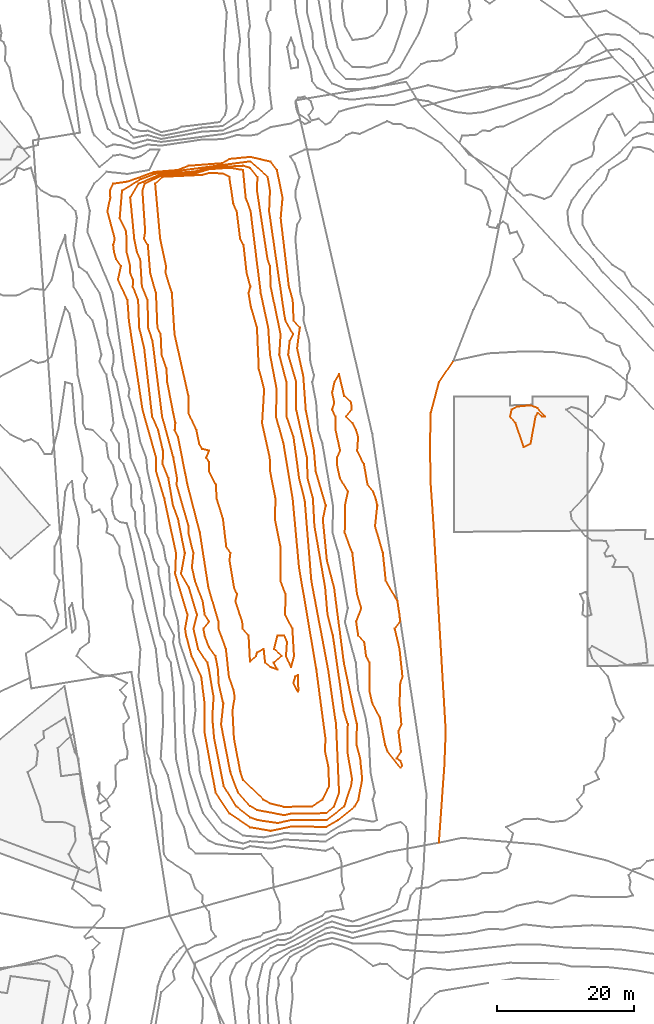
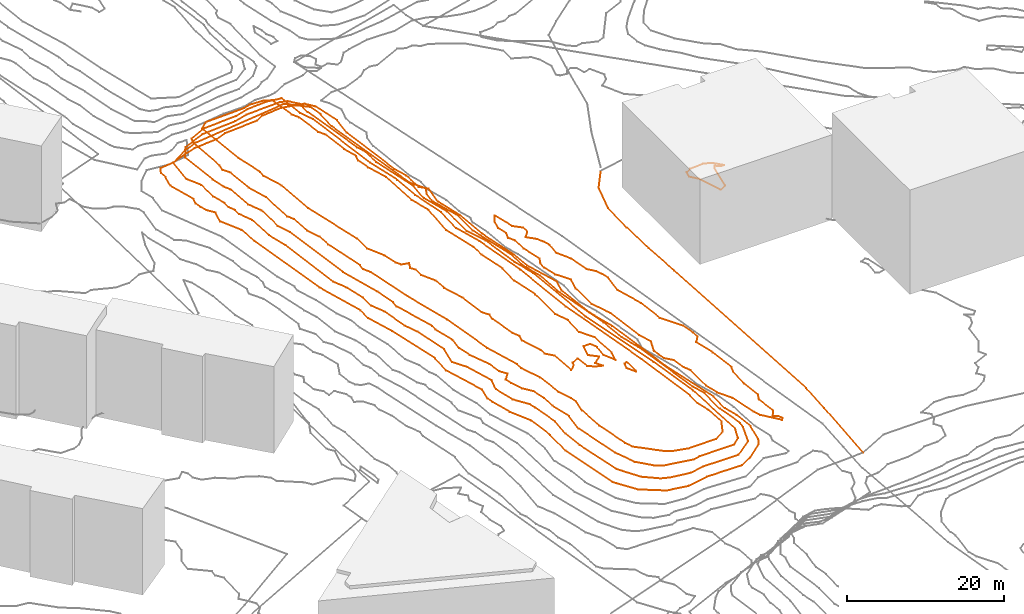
# Not in any storey, part 149 of 419: 10 proxies.
"""IFC2X3 model written with IfcOpenShell, lengths in metres."""

from ifc_helpers import new_model, entity, si_unit, frame, origin_with_axes, place, context, subcontext, project, element, save


model = new_model("IFC2X3")

# Units and contexts
model_context = context("Model", 3, precision=1e-05, world=origin_with_axes())
body_context = subcontext(model_context, "Body", "Model", "MODEL_VIEW")
ifc_project = project(units=[si_unit("AREAUNIT", "SQUARE_METRE"), si_unit("LENGTHUNIT", "METRE")], contexts=[model_context])

# Proxies
proxy_1_placement = place(None, frame((238.8920204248, 579.2976909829, 22.8), z_axis=(0.0, 0.0, 1.0), x_axis=(1.0, 0.0, 0.0)))
element("IfcBuildingElementProxy", 1, at=proxy_1_placement, Name="Route 189", ObjectType="NOTDEFINED", context=body_context, shape_type="GeometricCurveSet", body=[
    entity("IfcGeometricCurveSet", [entity("IfcPolyline", [entity("IfcCartesianPoint", [0.0, 0.0, 0.0]), entity("IfcCartesianPoint", [1.7999999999, -30.4000000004, -0.4]), entity("IfcCartesianPoint", [1.6, -35.4000000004, -0.4]), entity("IfcCartesianPoint", [0.7999999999, -46.7000000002, -0.2])])]),
])
proxy_2_placement = place(None, frame((238.3920204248, 590.4976909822, 22.9), z_axis=(0.0, 0.0, 1.0), x_axis=(1.0, 0.0, 0.0)))
element("IfcBuildingElementProxy", 2, at=proxy_2_placement, Name="Route 206", ObjectType="NOTDEFINED", context=body_context, shape_type="GeometricCurveSet", body=[
    entity("IfcGeometricCurveSet", [entity("IfcPolyline", [entity("IfcCartesianPoint", [3.3999999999, 12.5, 0.0]), entity("IfcCartesianPoint", [1.2999999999, 9.4000000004, 0.0]), entity("IfcCartesianPoint", [0.1, 4.9000000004, 0.0]), entity("IfcCartesianPoint", [0.0, 0.0, 0.0]), entity("IfcCartesianPoint", [0.1, -5.3999999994, 0.0]), entity("IfcCartesianPoint", [0.5, -11.1999999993, -0.1])])]),
])
proxy_3_placement = place(None, frame((250.0920004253, 594.8976909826, 24.0), z_axis=(0.0, 0.0, 1.0), x_axis=(1.0, 0.0, 0.0)))
element("IfcBuildingElementProxy", 3, at=proxy_3_placement, Name="Contour 24.0 m", ObjectType="NOTDEFINED", context=body_context, shape_type="GeometricCurveSet", body=[
    entity("IfcGeometricCurveSet", [entity("IfcPolyline", [entity("IfcCartesianPoint", [3.0000299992, -4.0, 0.0]), entity("IfcCartesianPoint", [2.0000199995, -4.5000499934, 0.0]), entity("IfcCartesianPoint", [0.8000199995, -1.0, 0.0]), entity("IfcCartesianPoint", [0.0, 0.0, 0.0]), entity("IfcCartesianPoint", [0.2222469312, 1.0, 0.0]), entity("IfcCartesianPoint", [1.0000199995, 1.4374985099, 0.0]), entity("IfcCartesianPoint", [3.0000199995, 1.6000025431, 0.0]), entity("IfcCartesianPoint", [4.0000199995, 1.2222269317, 0.0]), entity("IfcCartesianPoint", [5.1428810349, 0.0, 0.0]), entity("IfcCartesianPoint", [4.6666866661, 0.0, 0.0]), entity("IfcCartesianPoint", [4.0000199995, 0.4999750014, 0.0]), entity("IfcCartesianPoint", [3.7142979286, 0.0, 0.0]), entity("IfcCartesianPoint", [3.0000299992, -4.0, 0.0])])]),
])
proxy_4_placement = place(None, frame((198.227153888, 628.8976909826, 29.0), z_axis=(0.0, 0.0, 1.0), x_axis=(1.0, 0.0, 0.0)))
element("IfcBuildingElementProxy", 4, at=proxy_4_placement, Name="Contour 29.0 m", ObjectType="NOTDEFINED", context=body_context, shape_type="GeometricCurveSet", body=[
    entity("IfcGeometricCurveSet", [entity("IfcPolyline", [entity("IfcCartesianPoint", [17.8648832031, -71.0, 0.0]), entity("IfcCartesianPoint", [16.8648665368, -70.666666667, 0.0]), entity("IfcCartesianPoint", [16.0648665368, -70.0, 0.0]), entity("IfcCartesianPoint", [15.8648665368, -68.0000999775, 0.0]), entity("IfcCartesianPoint", [14.8648665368, -68.5000499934, 0.0]), entity("IfcCartesianPoint", [14.7220055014, -69.0, 0.0]), entity("IfcCartesianPoint", [13.8648665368, -69.8571389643, 0.0]), entity("IfcCartesianPoint", [13.6505779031, -66.0, 0.0]), entity("IfcCartesianPoint", [12.7779078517, -65.0, 0.0]), entity("IfcCartesianPoint", [12.722006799, -64.0, 0.0]), entity("IfcCartesianPoint", [11.722006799, -61.0, 0.0]), entity("IfcCartesianPoint", [11.9648684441, -60.0, 0.0]), entity("IfcCartesianPoint", [11.531537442, -59.0, 0.0]), entity("IfcCartesianPoint", [10.8648612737, -55.0, 0.0]), entity("IfcCartesianPoint", [10.9982032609, -54.0, 0.0]), entity("IfcCartesianPoint", [10.3942789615, -53.0, 0.0]), entity("IfcCartesianPoint", [9.9124864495, -49.0, 0.0]), entity("IfcCartesianPoint", [8.9953034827, -46.0, 0.0]), entity("IfcCartesianPoint", [8.8648665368, -44.0000333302, 0.0]), entity("IfcCartesianPoint", [7.8648498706, -42.0, 0.0]), entity("IfcCartesianPoint", [7.8648665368, -40.666666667, 0.0]), entity("IfcCartesianPoint", [7.4648665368, -40.0, 0.0]), entity("IfcCartesianPoint", [7.8647665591, -39.0, 0.0]), entity("IfcCartesianPoint", [6.8648665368, -38.75, 0.0]), entity("IfcCartesianPoint", [6.4362951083, -38.0, 0.0]), entity("IfcCartesianPoint", [6.0315385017, -36.0, 0.0]), entity("IfcCartesianPoint", [4.8648665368, -33.5000249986, 0.0]), entity("IfcCartesianPoint", [4.8648615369, -31.0, 0.0]), entity("IfcCartesianPoint", [2.8303830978, -22.0, 0.0]), entity("IfcCartesianPoint", [2.4481978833, -16.0, 0.0]), entity("IfcCartesianPoint", [1.5200387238, -13.0, 0.0]), entity("IfcCartesianPoint", [1.5890037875, -12.0, 0.0]), entity("IfcCartesianPoint", [0.7344326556, -8.0, 0.0]), entity("IfcCartesianPoint", [0.0, 0.0, 0.0]), entity("IfcCartesianPoint", [1.0398659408, 1.0, 0.0]), entity("IfcCartesianPoint", [6.8648665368, 1.2815127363, 0.0]), entity("IfcCartesianPoint", [7.8648665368, 1.5666665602, 0.0]), entity("IfcCartesianPoint", [9.8648665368, 1.4933344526, 0.0]), entity("IfcCartesianPoint", [10.838550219, 1.0, 0.0]), entity("IfcCartesianPoint", [11.4273680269, -3.0, 0.0]), entity("IfcCartesianPoint", [11.9113791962, -4.0, 0.0]), entity("IfcCartesianPoint", [12.4165920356, -8.0, 0.0]), entity("IfcCartesianPoint", [12.9184390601, -9.0, 0.0]), entity("IfcCartesianPoint", [13.3648694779, -13.0, 0.0]), entity("IfcCartesianPoint", [13.9096436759, -15.0, 0.0]), entity("IfcCartesianPoint", [13.6474781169, -16.0, 0.0]), entity("IfcCartesianPoint", [13.995300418, -18.0, 0.0]), entity("IfcCartesianPoint", [14.8827241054, -21.0, 0.0]), entity("IfcCartesianPoint", [15.1407292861, -27.0, 0.0]), entity("IfcCartesianPoint", [15.9286976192, -30.0, 0.0]), entity("IfcCartesianPoint", [15.6295727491, -35.0, 0.0]), entity("IfcCartesianPoint", [16.7472168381, -40.0, 0.0]), entity("IfcCartesianPoint", [16.7981985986, -42.0, 0.0]), entity("IfcCartesianPoint", [17.5836157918, -46.0, 0.0]), entity("IfcCartesianPoint", [17.5100274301, -49.0, 0.0]), entity("IfcCartesianPoint", [18.3148677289, -53.0, 0.0]), entity("IfcCartesianPoint", [18.3023650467, -58.0, 0.0]), entity("IfcCartesianPoint", [19.0648654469, -60.0, 0.0]), entity("IfcCartesianPoint", [18.9825162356, -63.0, 0.0]), entity("IfcCartesianPoint", [20.0540554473, -65.0, 0.0]), entity("IfcCartesianPoint", [20.2934360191, -69.0, 0.0]), entity("IfcCartesianPoint", [19.8648665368, -70.666666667, 0.0]), entity("IfcCartesianPoint", [19.1148724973, -69.0, 0.0]), entity("IfcCartesianPoint", [19.2648665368, -67.0, 0.0]), entity("IfcCartesianPoint", [18.8648665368, -66.0000499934, 0.0]), entity("IfcCartesianPoint", [17.8648665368, -66.0000999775, 0.0]), entity("IfcCartesianPoint", [17.364891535, -68.0, 0.0]), entity("IfcCartesianPoint", [18.4648665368, -69.0, 0.0]), entity("IfcCartesianPoint", [17.3093204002, -70.0, 0.0]), entity("IfcCartesianPoint", [17.8648832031, -71.0, 0.0])])]),
])
proxy_5_placement = place(None, frame((218.4253537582, 555.8976909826, 29.0), z_axis=(0.0, 0.0, 1.0), x_axis=(1.0, 0.0, 0.0)))
element("IfcBuildingElementProxy", 5, at=proxy_5_placement, Name="Contour 29.0 m", ObjectType="NOTDEFINED", context=body_context, shape_type="GeometricCurveSet", body=[
    entity("IfcGeometricCurveSet", [entity("IfcPolyline", [entity("IfcCartesianPoint", [0.7333350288, -1.0, 0.0]), entity("IfcCartesianPoint", [0.6666666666, -1.25, 0.0]), entity("IfcCartesianPoint", [0.0, 0.0, 0.0]), entity("IfcCartesianPoint", [0.2666666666, 1.0, 0.0]), entity("IfcCartesianPoint", [0.6666666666, 1.2222269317, 0.0]), entity("IfcCartesianPoint", [0.7333350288, -1.0, 0.0])])]),
])
proxy_6_placement = place(None, frame((224.0920204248, 598.397665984, 23.0), z_axis=(0.0, 0.0, 1.0), x_axis=(1.0, 0.0, 0.0)))
element("IfcBuildingElementProxy", 6, at=proxy_6_placement, Name="Contour 23.0 m", ObjectType="NOTDEFINED", context=body_context, shape_type="GeometricCurveSet", body=[
    entity("IfcGeometricCurveSet", [entity("IfcPolyline", [entity("IfcCartesianPoint", [10.0, -54.8571139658, 0.0]), entity("IfcCartesianPoint", [10.2499976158, -54.4999750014, 0.0]), entity("IfcCartesianPoint", [10.0, -53.8749839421, 0.0]), entity("IfcCartesianPoint", [9.4, -53.4999750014, 0.0]), entity("IfcCartesianPoint", [10.0588248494, -52.4999750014, 0.0]), entity("IfcCartesianPoint", [9.6875044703, -49.4999750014, 0.0]), entity("IfcCartesianPoint", [10.1290346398, -48.4999750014, 0.0]), entity("IfcCartesianPoint", [9.846151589, -45.4999750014, 0.0]), entity("IfcCartesianPoint", [9.9583323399, -42.4999750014, 0.0]), entity("IfcCartesianPoint", [10.2799987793, -41.4999750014, 0.0]), entity("IfcCartesianPoint", [9.8484871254, -37.4999750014, 0.0]), entity("IfcCartesianPoint", [9.1538495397, -34.4999750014, 0.0]), entity("IfcCartesianPoint", [9.9142838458, -33.4999750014, 0.0]), entity("IfcCartesianPoint", [9.862069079, -32.4999750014, 0.0]), entity("IfcCartesianPoint", [9.537037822, -30.4999750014, 0.0]), entity("IfcCartesianPoint", [7.8333354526, -27.4999750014, 0.0]), entity("IfcCartesianPoint", [7.4166686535, -23.4999750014, 0.0]), entity("IfcCartesianPoint", [6.2666700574, -19.4999750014, 0.0]), entity("IfcCartesianPoint", [6.5999984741, -16.4999750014, 0.0]), entity("IfcCartesianPoint", [6.3684202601, -15.4999750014, 0.0]), entity("IfcCartesianPoint", [6.0, -14.4999821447, 0.0]), entity("IfcCartesianPoint", [5.1904796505, -13.4999750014, 0.0]), entity("IfcCartesianPoint", [4.6499995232, -10.4999750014, 0.0]), entity("IfcCartesianPoint", [3.6521735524, -8.4999750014, 0.0]), entity("IfcCartesianPoint", [3.8076940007, -6.4999750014, 0.0]), entity("IfcCartesianPoint", [3.4999958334, -5.4999750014, 0.0]), entity("IfcCartesianPoint", [3.0, -4.4999833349, 0.0]), entity("IfcCartesianPoint", [1.9999916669, -3.4999750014, 0.0]), entity("IfcCartesianPoint", [2.8124955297, -2.4999750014, 0.0]), entity("IfcCartesianPoint", [2.7916696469, -1.4999750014, 0.0]), entity("IfcCartesianPoint", [1.7647006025, -0.4999750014, 0.0]), entity("IfcCartesianPoint", [1.0, 2.6666969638, 0.0]), entity("IfcCartesianPoint", [0.3333386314, 1.5000249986, 0.0]), entity("IfcCartesianPoint", [0.0, 0.0, 0.0]), entity("IfcCartesianPoint", [0.3124955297, -1.4999750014, 0.0]), entity("IfcCartesianPoint", [9.0906e-06, -2.4999750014, 0.0]), entity("IfcCartesianPoint", [0.478260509, -3.4999750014, 0.0]), entity("IfcCartesianPoint", [0.5151518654, -5.4999750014, 0.0]), entity("IfcCartesianPoint", [1.1666693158, -8.4999750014, 0.0]), entity("IfcCartesianPoint", [0.6999987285, -9.4999750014, 0.0]), entity("IfcCartesianPoint", [0.688889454, -10.4999750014, 0.0]), entity("IfcCartesianPoint", [1.1363660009, -12.4999750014, 0.0]), entity("IfcCartesianPoint", [2.3076934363, -14.4999750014, 0.0]), entity("IfcCartesianPoint", [1.8571441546, -16.4999750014, 0.0]), entity("IfcCartesianPoint", [1.8461541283, -20.4999750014, 0.0]), entity("IfcCartesianPoint", [2.9512183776, -23.4999750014, 0.0]), entity("IfcCartesianPoint", [3.6415088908, -29.4999750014, 0.0]), entity("IfcCartesianPoint", [4.2571430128, -31.4999750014, 0.0]), entity("IfcCartesianPoint", [3.51020432, -33.4999750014, 0.0]), entity("IfcCartesianPoint", [3.655172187, -34.4999750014, 0.0]), entity("IfcCartesianPoint", [3.819671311, -35.4999750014, 0.0]), entity("IfcCartesianPoint", [4.695652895, -36.4999750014, 0.0]), entity("IfcCartesianPoint", [4.9622633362, -38.4999750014, 0.0]), entity("IfcCartesianPoint", [5.4516117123, -39.4999750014, 0.0]), entity("IfcCartesianPoint", [5.4318188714, -43.4999750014, 0.0]), entity("IfcCartesianPoint", [5.8909099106, -45.4999750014, 0.0]), entity("IfcCartesianPoint", [6.9803917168, -47.4999750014, 0.0]), entity("IfcCartesianPoint", [7.75, -51.4999750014, 0.0]), entity("IfcCartesianPoint", [8.1052652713, -52.4999750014, 0.0]), entity("IfcCartesianPoint", [10.0, -54.8571139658, 0.0])])]),
])
proxy_7_placement = place(None, frame((196.3689441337, 627.8976909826, 28.0), z_axis=(0.0, 0.0, 1.0), x_axis=(1.0, 0.0, 0.0)))
element("IfcBuildingElementProxy", 7, at=proxy_7_placement, Name="Contour 28.0 m", ObjectType="NOTDEFINED", context=body_context, shape_type="GeometricCurveSet", body=[
    entity("IfcGeometricCurveSet", [entity("IfcPolyline", [entity("IfcCartesianPoint", [24.7706962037, -90.0, 0.0]), entity("IfcCartesianPoint", [20.723076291, -90.0821911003, 0.0]), entity("IfcCartesianPoint", [18.723076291, -89.6034490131, 0.0]), entity("IfcCartesianPoint", [17.654109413, -89.0, 0.0]), entity("IfcCartesianPoint", [14.723076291, -86.1851833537, 0.0]), entity("IfcCartesianPoint", [14.3048947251, -85.0, 0.0]), entity("IfcCartesianPoint", [13.3712240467, -80.0, 0.0]), entity("IfcCartesianPoint", [13.1578596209, -76.0, 0.0]), entity("IfcCartesianPoint", [13.4877806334, -74.0, 0.0]), entity("IfcCartesianPoint", [13.3230747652, -73.0, 0.0]), entity("IfcCartesianPoint", [12.639741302, -71.0, 0.0]), entity("IfcCartesianPoint", [12.1992661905, -67.0, 0.0]), entity("IfcCartesianPoint", [11.1230762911, -64.0, 0.0]), entity("IfcCartesianPoint", [11.1119641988, -63.0, 0.0]), entity("IfcCartesianPoint", [9.64307446, -58.0, 0.0]), entity("IfcCartesianPoint", [8.3897439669, -50.0, 0.0]), entity("IfcCartesianPoint", [6.5802197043, -43.0, 0.0]), entity("IfcCartesianPoint", [5.2087902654, -36.0, 0.0]), entity("IfcCartesianPoint", [4.7230747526, -35.0, 0.0]), entity("IfcCartesianPoint", [4.8000010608, -34.0, 0.0]), entity("IfcCartesianPoint", [3.627186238, -28.0, 0.0]), entity("IfcCartesianPoint", [3.5076924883, -26.0, 0.0]), entity("IfcCartesianPoint", [2.7958050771, -24.0, 0.0]), entity("IfcCartesianPoint", [2.6605749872, -21.0, 0.0]), entity("IfcCartesianPoint", [2.18974211, -20.0, 0.0]), entity("IfcCartesianPoint", [1.9773128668, -15.0, 0.0]), entity("IfcCartesianPoint", [1.1284818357, -12.0, 0.0]), entity("IfcCartesianPoint", [0.7971519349, -8.0, 0.0]), entity("IfcCartesianPoint", [0.2315494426, -7.0, 0.0]), entity("IfcCartesianPoint", [0.4039277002, -6.0, 0.0]), entity("IfcCartesianPoint", [0.0, 0.0, 0.0]), entity("IfcCartesianPoint", [0.3212067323, 1.0, 0.0]), entity("IfcCartesianPoint", [2.723076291, 2.1795408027, 0.0]), entity("IfcCartesianPoint", [7.723076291, 2.5029237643, 0.0]), entity("IfcCartesianPoint", [9.723076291, 3.1167882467, 0.0]), entity("IfcCartesianPoint", [12.723076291, 3.3206350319, 0.0]), entity("IfcCartesianPoint", [14.7045573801, 3.0, 0.0]), entity("IfcCartesianPoint", [15.0867132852, -1.0, 0.0]), entity("IfcCartesianPoint", [15.80758269, -3.0, 0.0]), entity("IfcCartesianPoint", [17.2945052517, -15.0, 0.0]), entity("IfcCartesianPoint", [18.3848418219, -20.0, 0.0]), entity("IfcCartesianPoint", [18.65363284, -24.0, 0.0]), entity("IfcCartesianPoint", [19.6119655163, -29.0, 0.0]), entity("IfcCartesianPoint", [19.517194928, -33.0, 0.0]), entity("IfcCartesianPoint", [20.6196289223, -37.0, 0.0]), entity("IfcCartesianPoint", [21.9525839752, -45.0, 0.0]), entity("IfcCartesianPoint", [22.8793265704, -55.0, 0.0]), entity("IfcCartesianPoint", [25.4127308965, -70.0, 0.0]), entity("IfcCartesianPoint", [26.7400258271, -80.0, 0.0]), entity("IfcCartesianPoint", [26.6891772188, -82.0, 0.0]), entity("IfcCartesianPoint", [27.1516473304, -84.0, 0.0]), entity("IfcCartesianPoint", [27.2875922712, -87.0, 0.0]), entity("IfcCartesianPoint", [26.3183142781, -89.0, 0.0]), entity("IfcCartesianPoint", [24.7706962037, -90.0, 0.0])])]),
])
proxy_8_placement = place(None, frame((194.5829293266, 626.8976909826, 27.0), z_axis=(0.0, 0.0, 1.0), x_axis=(1.0, 0.0, 0.0)))
element("IfcBuildingElementProxy", 8, at=proxy_8_placement, Name="Contour 27.0 m", ObjectType="NOTDEFINED", context=body_context, shape_type="GeometricCurveSet", body=[
    entity("IfcGeometricCurveSet", [entity("IfcPolyline", [entity("IfcCartesianPoint", [28.6184657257, -90.0, 0.0]), entity("IfcCartesianPoint", [23.5090910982, -90.0566032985, 0.0]), entity("IfcCartesianPoint", [22.5090910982, -90.2869565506, 0.0]), entity("IfcCartesianPoint", [18.5090910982, -89.5423722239, 0.0]), entity("IfcCartesianPoint", [17.5090910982, -88.9285698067, 0.0]), entity("IfcCartesianPoint", [15.7636357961, -87.0, 0.0]), entity("IfcCartesianPoint", [14.6259743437, -84.0, 0.0]), entity("IfcCartesianPoint", [13.2722486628, -77.0, 0.0]), entity("IfcCartesianPoint", [13.6063129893, -74.0, 0.0]), entity("IfcCartesianPoint", [12.9120768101, -71.0, 0.0]), entity("IfcCartesianPoint", [12.8340909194, -69.0, 0.0]), entity("IfcCartesianPoint", [12.4409078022, -67.0, 0.0]), entity("IfcCartesianPoint", [11.5090910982, -65.7500019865, 0.0]), entity("IfcCartesianPoint", [10.8874689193, -64.0, 0.0]), entity("IfcCartesianPoint", [10.6951373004, -63.0, 0.0]), entity("IfcCartesianPoint", [11.5215913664, -62.0, 0.0]), entity("IfcCartesianPoint", [10.8965908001, -61.0, 0.0]), entity("IfcCartesianPoint", [10.5880377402, -59.0, 0.0]), entity("IfcCartesianPoint", [9.4511188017, -56.0, 0.0]), entity("IfcCartesianPoint", [9.0229802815, -54.0, 0.0]), entity("IfcCartesianPoint", [9.2374868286, -52.0, 0.0]), entity("IfcCartesianPoint", [8.4968956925, -49.0, 0.0]), entity("IfcCartesianPoint", [8.5220784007, -48.0, 0.0]), entity("IfcCartesianPoint", [6.7749130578, -42.0, 0.0]), entity("IfcCartesianPoint", [6.8382049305, -41.0, 0.0]), entity("IfcCartesianPoint", [6.2969707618, -38.0, 0.0]), entity("IfcCartesianPoint", [4.6659536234, -32.0, 0.0]), entity("IfcCartesianPoint", [3.2590905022, -21.0, 0.0]), entity("IfcCartesianPoint", [2.6214509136, -19.0, 0.0]), entity("IfcCartesianPoint", [2.5354074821, -15.0, 0.0]), entity("IfcCartesianPoint", [1.7090900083, -13.0, 0.0]), entity("IfcCartesianPoint", [1.45824249, -9.0, 0.0]), entity("IfcCartesianPoint", [0.9757582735, -8.0, 0.0]), entity("IfcCartesianPoint", [0.5880377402, -6.0, 0.0]), entity("IfcCartesianPoint", [0.0, 0.0, 0.0]), entity("IfcCartesianPoint", [1.1933014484, 2.0, 0.0]), entity("IfcCartesianPoint", [4.5090910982, 3.3883090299, 0.0]), entity("IfcCartesianPoint", [9.5090910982, 3.7953214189, 0.0]), entity("IfcCartesianPoint", [11.5090910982, 4.3600973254, 0.0]), entity("IfcCartesianPoint", [16.5090910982, 4.6149064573, 0.0]), entity("IfcCartesianPoint", [17.5090910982, 4.3181822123, 0.0]), entity("IfcCartesianPoint", [18.5890929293, 3.0, 0.0]), entity("IfcCartesianPoint", [18.5308306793, 1.0, 0.0]), entity("IfcCartesianPoint", [20.0662339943, -9.0, 0.0]), entity("IfcCartesianPoint", [20.4228855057, -10.0, 0.0]), entity("IfcCartesianPoint", [20.5266353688, -13.0, 0.0]), entity("IfcCartesianPoint", [21.973377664, -20.0, 0.0]), entity("IfcCartesianPoint", [21.7829000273, -23.0, 0.0]), entity("IfcCartesianPoint", [22.8369608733, -27.0, 0.0]), entity("IfcCartesianPoint", [22.83766241, -32.0, 0.0]), entity("IfcCartesianPoint", [23.8650228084, -35.0, 0.0]), entity("IfcCartesianPoint", [24.6819299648, -41.0, 0.0]), entity("IfcCartesianPoint", [25.5090910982, -44.3000057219, 0.0]), entity("IfcCartesianPoint", [26.4690901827, -56.0, 0.0]), entity("IfcCartesianPoint", [28.925758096, -69.0, 0.0]), entity("IfcCartesianPoint", [30.0835586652, -77.0, 0.0]), entity("IfcCartesianPoint", [30.5244760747, -87.0, 0.0]), entity("IfcCartesianPoint", [29.7630594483, -89.0, 0.0]), entity("IfcCartesianPoint", [28.6184657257, -90.0, 0.0])])]),
])
proxy_9_placement = place(None, frame((193.0485412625, 623.8976909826, 26.0), z_axis=(0.0, 0.0, 1.0), x_axis=(1.0, 0.0, 0.0)))
element("IfcBuildingElementProxy", 9, at=proxy_9_placement, Name="Contour 26.0 m", ObjectType="NOTDEFINED", context=body_context, shape_type="GeometricCurveSet", body=[
    entity("IfcGeometricCurveSet", [entity("IfcPolyline", [entity("IfcCartesianPoint", [30.2165562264, -88.0, 0.0]), entity("IfcCartesianPoint", [25.0434791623, -88.0000009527, 0.0]), entity("IfcCartesianPoint", [23.0434791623, -88.4347827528, 0.0]), entity("IfcCartesianPoint", [20.1101471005, -88.0, 0.0]), entity("IfcCartesianPoint", [19.0434791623, -87.6119400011, 0.0]), entity("IfcCartesianPoint", [17.0434791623, -86.0357150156, 0.0]), entity("IfcCartesianPoint", [15.1956527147, -83.0, 0.0]), entity("IfcCartesianPoint", [13.7934797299, -76.0, 0.0]), entity("IfcCartesianPoint", [13.529966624, -73.0, 0.0]), entity("IfcCartesianPoint", [13.7234794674, -70.0, 0.0]), entity("IfcCartesianPoint", [13.0434776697, -66.0, 0.0]), entity("IfcCartesianPoint", [12.8139714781, -65.0, 0.0]), entity("IfcCartesianPoint", [11.4651664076, -63.0, 0.0]), entity("IfcCartesianPoint", [10.7758731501, -60.0, 0.0]), entity("IfcCartesianPoint", [11.3015433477, -58.0, 0.0]), entity("IfcCartesianPoint", [10.1175526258, -54.0, 0.0]), entity("IfcCartesianPoint", [8.9502583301, -52.0, 0.0]), entity("IfcCartesianPoint", [9.5110121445, -49.0, 0.0]), entity("IfcCartesianPoint", [8.5315741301, -44.0, 0.0]), entity("IfcCartesianPoint", [7.7850525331, -42.0, 0.0]), entity("IfcCartesianPoint", [7.1067694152, -38.0, 0.0]), entity("IfcCartesianPoint", [6.2839858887, -36.0, 0.0]), entity("IfcCartesianPoint", [6.3087856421, -34.0, 0.0]), entity("IfcCartesianPoint", [5.6268131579, -31.0, 0.0]), entity("IfcCartesianPoint", [4.7447786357, -29.0, 0.0]), entity("IfcCartesianPoint", [3.5736003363, -19.0, 0.0]), entity("IfcCartesianPoint", [2.8434787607, -16.0, 0.0]), entity("IfcCartesianPoint", [2.6916269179, -12.0, 0.0]), entity("IfcCartesianPoint", [1.9071152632, -10.0, 0.0]), entity("IfcCartesianPoint", [1.918479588, -9.0, 0.0]), entity("IfcCartesianPoint", [1.516452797, -8.0, 0.0]), entity("IfcCartesianPoint", [1.5434779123, -7.0, 0.0]), entity("IfcCartesianPoint", [1.0112204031, -5.0, 0.0]), entity("IfcCartesianPoint", [0.9491407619, -2.0, 0.0]), entity("IfcCartesianPoint", [0.0, 0.0, 0.0]), entity("IfcCartesianPoint", [0.3385613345, 4.0, 0.0]), entity("IfcCartesianPoint", [3.0434791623, 5.6476192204, 0.0]), entity("IfcCartesianPoint", [5.0434791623, 6.4119402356, 0.0]), entity("IfcCartesianPoint", [19.0434791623, 8.2597401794, 0.0]), entity("IfcCartesianPoint", [21.6241251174, 6.0, 0.0]), entity("IfcCartesianPoint", [21.9601468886, 4.0, 0.0]), entity("IfcCartesianPoint", [21.8345248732, 1.0, 0.0]), entity("IfcCartesianPoint", [24.0326093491, -14.0, 0.0]), entity("IfcCartesianPoint", [24.2173920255, -15.0, 0.0]), entity("IfcCartesianPoint", [25.3559786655, -17.0, 0.0]), entity("IfcCartesianPoint", [24.8313588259, -18.0, 0.0]), entity("IfcCartesianPoint", [24.6255677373, -20.0, 0.0]), entity("IfcCartesianPoint", [25.7998889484, -24.0, 0.0]), entity("IfcCartesianPoint", [25.7973254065, -28.0, 0.0]), entity("IfcCartesianPoint", [27.3574329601, -35.0, 0.0]), entity("IfcCartesianPoint", [27.4508867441, -38.0, 0.0]), entity("IfcCartesianPoint", [28.2382837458, -41.0, 0.0]), entity("IfcCartesianPoint", [28.4559794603, -45.0, 0.0]), entity("IfcCartesianPoint", [30.0256215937, -54.0, 0.0]), entity("IfcCartesianPoint", [30.371066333, -58.0, 0.0]), entity("IfcCartesianPoint", [31.1545907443, -61.0, 0.0]), entity("IfcCartesianPoint", [32.736813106, -72.0, 0.0]), entity("IfcCartesianPoint", [33.3329518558, -74.0, 0.0]), entity("IfcCartesianPoint", [33.2742479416, -78.0, 0.0]), entity("IfcCartesianPoint", [33.9583710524, -82.0, 0.0]), entity("IfcCartesianPoint", [33.7934791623, -83.0, 0.0]), entity("IfcCartesianPoint", [32.8006221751, -86.0, 0.0]), entity("IfcCartesianPoint", [30.2165562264, -88.0, 0.0])])]),
])
proxy_10_placement = place(None, frame((191.2427058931, 624.8976909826, 25.0), z_axis=(0.0, 0.0, 1.0), x_axis=(1.0, 0.0, 0.0)))
element("IfcBuildingElementProxy", 10, at=proxy_10_placement, Name="Contour 25.0 m", ObjectType="NOTDEFINED", context=body_context, shape_type="GeometricCurveSet", body=[
    entity("IfcGeometricCurveSet", [entity("IfcPolyline", [entity("IfcCartesianPoint", [31.9921723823, -90.0, 0.0]), entity("IfcCartesianPoint", [26.8493145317, -89.9523816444, 0.0]), entity("IfcCartesianPoint", [23.8493145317, -90.5765767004, 0.0]), entity("IfcCartesianPoint", [20.8493145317, -90.0563392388, 0.0]), entity("IfcCartesianPoint", [17.8493145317, -88.0512830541, 0.0]), entity("IfcCartesianPoint", [15.826058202, -85.0, 0.0]), entity("IfcCartesianPoint", [14.172843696, -76.0, 0.0]), entity("IfcCartesianPoint", [14.2129506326, -72.0, 0.0]), entity("IfcCartesianPoint", [13.7194439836, -68.0, 0.0]), entity("IfcCartesianPoint", [12.3173999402, -65.0, 0.0]), entity("IfcCartesianPoint", [11.5072096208, -62.0, 0.0]), entity("IfcCartesianPoint", [11.3595188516, -61.0, 0.0]), entity("IfcCartesianPoint", [11.7276926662, -59.0, 0.0]), entity("IfcCartesianPoint", [9.9086362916, -53.0, 0.0]), entity("IfcCartesianPoint", [10.0391877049, -50.0, 0.0]), entity("IfcCartesianPoint", [8.3205793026, -42.0, 0.0]), entity("IfcCartesianPoint", [7.114020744, -38.0, 0.0]), entity("IfcCartesianPoint", [7.1229987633, -36.0, 0.0]), entity("IfcCartesianPoint", [5.1371941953, -29.0, 0.0]), entity("IfcCartesianPoint", [3.1509021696, -16.0, 0.0]), entity("IfcCartesianPoint", [2.9338209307, -13.0, 0.0]), entity("IfcCartesianPoint", [1.5455169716, -10.0, 0.0]), entity("IfcCartesianPoint", [1.9921720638, -8.0, 0.0]), entity("IfcCartesianPoint", [1.2806855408, -7.0, 0.0]), entity("IfcCartesianPoint", [0.9797484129, -6.0, 0.0]), entity("IfcCartesianPoint", [0.8493121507, -5.0, 0.0]), entity("IfcCartesianPoint", [1.0826474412, -4.0, 0.0]), entity("IfcCartesianPoint", [0.0, 0.0, 0.0]), entity("IfcCartesianPoint", [0.4326475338, 2.0, 0.0]), entity("IfcCartesianPoint", [0.3599530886, 3.0, 0.0]), entity("IfcCartesianPoint", [0.8493145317, 4.0000012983, 0.0]), entity("IfcCartesianPoint", [2.8493145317, 4.2869565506, 0.0]), entity("IfcCartesianPoint", [6.8493145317, 5.7104478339, 0.0]), entity("IfcCartesianPoint", [10.2540765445, 6.0, 0.0]), entity("IfcCartesianPoint", [11.8493145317, 6.6206895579, 0.0]), entity("IfcCartesianPoint", [16.7937577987, 7.0, 0.0]), entity("IfcCartesianPoint", [17.8493145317, 7.6187048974, 0.0]), entity("IfcCartesianPoint", [20.8493145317, 7.9090912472, 0.0]), entity("IfcCartesianPoint", [23.8493145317, 7.2222216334, 0.0]), entity("IfcCartesianPoint", [24.7840957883, 6.0, 0.0]), entity("IfcCartesianPoint", [25.6044156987, 2.0, 0.0]), entity("IfcCartesianPoint", [25.3275749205, -1.0, 0.0]), entity("IfcCartesianPoint", [26.5249904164, -11.0, 0.0]), entity("IfcCartesianPoint", [27.0874106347, -13.0, 0.0]), entity("IfcCartesianPoint", [27.2129506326, -16.0, 0.0]), entity("IfcCartesianPoint", [28.1228185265, -17.0, 0.0]), entity("IfcCartesianPoint", [27.7273628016, -20.0, 0.0]), entity("IfcCartesianPoint", [28.6185451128, -24.0, 0.0]), entity("IfcCartesianPoint", [28.9944758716, -29.0, 0.0]), entity("IfcCartesianPoint", [30.1976287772, -35.0, 0.0]), entity("IfcCartesianPoint", [30.4435167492, -38.0, 0.0]), entity("IfcCartesianPoint", [31.920742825, -43.0, 0.0]), entity("IfcCartesianPoint", [31.4903396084, -45.0, 0.0]), entity("IfcCartesianPoint", [32.0757309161, -51.0, 0.0]), entity("IfcCartesianPoint", [33.1350284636, -55.0, 0.0]), entity("IfcCartesianPoint", [34.5618148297, -66.0, 0.0]), entity("IfcCartesianPoint", [36.4626466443, -75.0, 0.0]), entity("IfcCartesianPoint", [36.4246574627, -78.0, 0.0]), entity("IfcCartesianPoint", [36.9493145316, -80.0, 0.0]), entity("IfcCartesianPoint", [37.2432543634, -83.0, 0.0]), entity("IfcCartesianPoint", [36.679503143, -86.0, 0.0]), entity("IfcCartesianPoint", [36.1493154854, -87.0, 0.0]), entity("IfcCartesianPoint", [33.7399399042, -89.0, 0.0]), entity("IfcCartesianPoint", [31.9921723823, -90.0, 0.0])])]),
])

save(model, "model.ifc")
